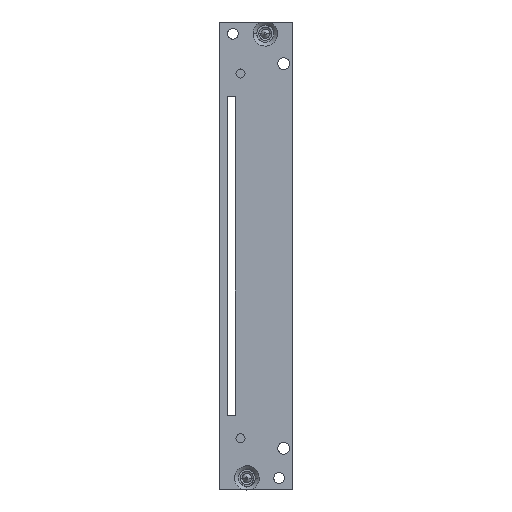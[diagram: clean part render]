
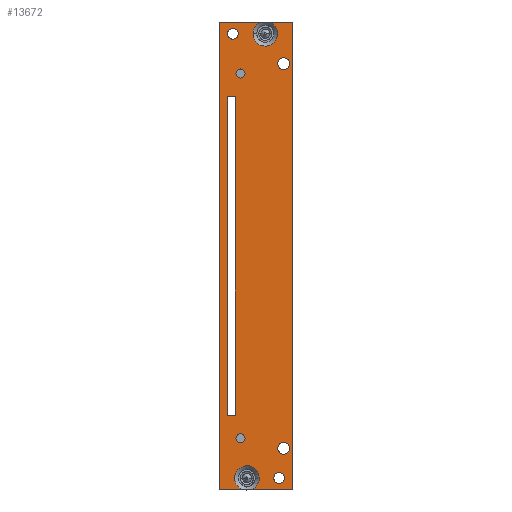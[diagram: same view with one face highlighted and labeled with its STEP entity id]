
A CAD part, top view. The second image highlights one B-rep face of the part: STEP entity #13672.
In plain terms, the highlighted planar face has unit normal (0, 0, 1).
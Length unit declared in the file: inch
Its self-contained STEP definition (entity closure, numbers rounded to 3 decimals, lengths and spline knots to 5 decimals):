
#318=CARTESIAN_POINT('',(0.15486,2.53315,0.105));
#338=CARTESIAN_POINT('',(0.04714,2.53315,0.105));
#352=CARTESIAN_POINT('',(-0.15286,-2.53315,0.105));
#372=CARTESIAN_POINT('',(-0.04514,-2.53315,0.105));
#3232=CARTESIAN_POINT('',(0.101,2.411,0.105));
#3233=DIRECTION('',(0.,0.,-1.));
#3234=DIRECTION('',(-1.,0.,0.));
#3235=AXIS2_PLACEMENT_3D('',#3232,#3233,#3234);
#3237=DIRECTION('',(-1.,0.,0.));
#3238=VECTOR('',#3237,0.23914);
#3239=CARTESIAN_POINT('',(0.394,2.53315,0.105));
#3240=LINE('',#3239,#3238);
#3241=DIRECTION('',(0.,1.,0.));
#3242=VECTOR('',#3241,5.0663);
#3243=CARTESIAN_POINT('',(0.394,-2.53315,0.105));
#3244=LINE('',#3243,#3242);
#3245=DIRECTION('',(1.,0.,0.));
#3246=VECTOR('',#3245,0.43914);
#3247=CARTESIAN_POINT('',(-0.04514,-2.53315,0.105));
#3248=LINE('',#3247,#3246);
#3249=CARTESIAN_POINT('',(-0.099,-2.411,0.105));
#3250=DIRECTION('',(0.,0.,-1.));
#3251=DIRECTION('',(1.,0.,0.));
#3252=AXIS2_PLACEMENT_3D('',#3249,#3250,#3251);
#3254=DIRECTION('',(1.,0.,0.));
#3255=VECTOR('',#3254,0.24114);
#3256=CARTESIAN_POINT('',(-0.394,-2.53315,0.105));
#3257=LINE('',#3256,#3255);
#3258=DIRECTION('',(0.,-1.,0.));
#3259=VECTOR('',#3258,5.0663);
#3260=CARTESIAN_POINT('',(-0.394,2.53315,0.105));
#3261=LINE('',#3260,#3259);
#3262=DIRECTION('',(-1.,0.,0.));
#3263=VECTOR('',#3262,0.44114);
#3264=CARTESIAN_POINT('',(0.04714,2.53315,0.105));
#3265=LINE('',#3264,#3263);
#3266=CARTESIAN_POINT('',(-0.168,-1.98015,0.105));
#3267=DIRECTION('',(0.,0.,1.));
#3268=DIRECTION('',(-1.,0.,0.));
#3269=AXIS2_PLACEMENT_3D('',#3266,#3267,#3268);
#3271=CARTESIAN_POINT('',(-0.168,-1.98015,0.105));
#3272=DIRECTION('',(0.,0.,1.));
#3273=DIRECTION('',(1.,0.,0.));
#3274=AXIS2_PLACEMENT_3D('',#3271,#3272,#3273);
#3276=CARTESIAN_POINT('',(-0.168,1.97985,0.105));
#3277=DIRECTION('',(0.,0.,1.));
#3278=DIRECTION('',(-1.,0.,0.));
#3279=AXIS2_PLACEMENT_3D('',#3276,#3277,#3278);
#3281=CARTESIAN_POINT('',(-0.168,1.97985,0.105));
#3282=DIRECTION('',(0.,0.,1.));
#3283=DIRECTION('',(1.,0.,0.));
#3284=AXIS2_PLACEMENT_3D('',#3281,#3282,#3283);
#3286=CARTESIAN_POINT('',(0.251,-2.411,0.105));
#3287=DIRECTION('',(0.,0.,1.));
#3288=DIRECTION('',(-1.,0.,0.));
#3289=AXIS2_PLACEMENT_3D('',#3286,#3287,#3288);
#3291=CARTESIAN_POINT('',(0.251,-2.411,0.105));
#3292=DIRECTION('',(0.,0.,1.));
#3293=DIRECTION('',(1.,0.,0.));
#3294=AXIS2_PLACEMENT_3D('',#3291,#3292,#3293);
#3296=CARTESIAN_POINT('',(-0.251,2.411,0.105));
#3297=DIRECTION('',(0.,0.,1.));
#3298=DIRECTION('',(-1.,0.,0.));
#3299=AXIS2_PLACEMENT_3D('',#3296,#3297,#3298);
#3301=CARTESIAN_POINT('',(-0.251,2.411,0.105));
#3302=DIRECTION('',(0.,0.,1.));
#3303=DIRECTION('',(1.,0.,0.));
#3304=AXIS2_PLACEMENT_3D('',#3301,#3302,#3303);
#3306=DIRECTION('',(1.,0.,0.));
#3307=VECTOR('',#3306,0.089);
#3308=CARTESIAN_POINT('',(-0.314,1.73064,0.105));
#3309=LINE('',#3308,#3307);
#3310=DIRECTION('',(0.,1.,0.));
#3311=VECTOR('',#3310,3.46079);
#3312=CARTESIAN_POINT('',(-0.314,-1.73015,0.105));
#3313=LINE('',#3312,#3311);
#3314=DIRECTION('',(1.,0.,0.));
#3315=VECTOR('',#3314,0.089);
#3316=CARTESIAN_POINT('',(-0.314,-1.73015,0.105));
#3317=LINE('',#3316,#3315);
#3318=DIRECTION('',(0.,-1.,0.));
#3319=VECTOR('',#3318,3.46079);
#3320=CARTESIAN_POINT('',(-0.225,1.73064,0.105));
#3321=LINE('',#3320,#3319);
#3322=CARTESIAN_POINT('',(0.301,2.087,0.105));
#3323=DIRECTION('',(0.,0.,-1.));
#3324=DIRECTION('',(-1.,0.,0.));
#3325=AXIS2_PLACEMENT_3D('',#3322,#3323,#3324);
#3327=CARTESIAN_POINT('',(0.301,2.087,0.105));
#3328=DIRECTION('',(0.,0.,-1.));
#3329=DIRECTION('',(1.,0.,0.));
#3330=AXIS2_PLACEMENT_3D('',#3327,#3328,#3329);
#3332=CARTESIAN_POINT('',(0.301,-2.087,0.105));
#3333=DIRECTION('',(0.,0.,-1.));
#3334=DIRECTION('',(-1.,0.,0.));
#3335=AXIS2_PLACEMENT_3D('',#3332,#3333,#3334);
#3337=CARTESIAN_POINT('',(0.301,-2.087,0.105));
#3338=DIRECTION('',(0.,0.,-1.));
#3339=DIRECTION('',(1.,0.,0.));
#3340=AXIS2_PLACEMENT_3D('',#3337,#3338,#3339);
#3346=CARTESIAN_POINT('',(0.101,2.411,0.105));
#3347=DIRECTION('',(0.,0.,-1.));
#3348=DIRECTION('',(0.404,0.915,0.));
#3349=AXIS2_PLACEMENT_3D('',#3346,#3347,#3348);
#4414=CARTESIAN_POINT('',(-0.099,-2.411,0.105));
#4415=DIRECTION('',(0.,0.,-1.));
#4416=DIRECTION('',(-0.404,-0.915,0.));
#4417=AXIS2_PLACEMENT_3D('',#4414,#4415,#4416);
#8750=CARTESIAN_POINT('',(-0.394,2.53315,0.105));
#8751=CARTESIAN_POINT('',(-0.394,-2.53315,0.105));
#8752=VERTEX_POINT('',#8750);
#8753=VERTEX_POINT('',#8751);
#8754=CARTESIAN_POINT('',(0.394,-2.53315,0.105));
#8755=CARTESIAN_POINT('',(0.394,2.53315,0.105));
#8756=VERTEX_POINT('',#8754);
#8757=VERTEX_POINT('',#8755);
#8762=CARTESIAN_POINT('',(0.19195,-2.411,0.105));
#8763=CARTESIAN_POINT('',(0.31006,-2.411,0.105));
#8764=VERTEX_POINT('',#8762);
#8765=VERTEX_POINT('',#8763);
#8774=CARTESIAN_POINT('',(-0.314,1.73064,0.105));
#8775=CARTESIAN_POINT('',(-0.225,1.73064,0.105));
#8776=VERTEX_POINT('',#8774);
#8777=VERTEX_POINT('',#8775);
#8778=CARTESIAN_POINT('',(-0.225,-1.73015,0.105));
#8779=VERTEX_POINT('',#8778);
#8780=CARTESIAN_POINT('',(-0.314,-1.73015,0.105));
#8781=VERTEX_POINT('',#8780);
#8786=CARTESIAN_POINT('',(-0.31006,2.411,0.105));
#8787=CARTESIAN_POINT('',(-0.19195,2.411,0.105));
#8788=VERTEX_POINT('',#8786);
#8789=VERTEX_POINT('',#8787);
#8794=CARTESIAN_POINT('',(0.237,2.087,0.105));
#8795=CARTESIAN_POINT('',(0.365,2.087,0.105));
#8796=VERTEX_POINT('',#8794);
#8797=VERTEX_POINT('',#8795);
#8798=CARTESIAN_POINT('',(-0.21721,-1.98015,0.105));
#8799=CARTESIAN_POINT('',(-0.11879,-1.98015,0.105));
#8800=VERTEX_POINT('',#8798);
#8801=VERTEX_POINT('',#8799);
#8802=CARTESIAN_POINT('',(-0.21721,1.97985,0.105));
#8803=CARTESIAN_POINT('',(-0.11879,1.97985,0.105));
#8804=VERTEX_POINT('',#8802);
#8805=VERTEX_POINT('',#8803);
#8807=VERTEX_POINT('',#338);
#8812=CARTESIAN_POINT('',(-0.0325,2.411,0.105));
#8813=VERTEX_POINT('',#8812);
#8814=VERTEX_POINT('',#318);
#8818=VERTEX_POINT('',#372);
#8823=CARTESIAN_POINT('',(0.0345,-2.411,0.105));
#8824=VERTEX_POINT('',#8823);
#8825=VERTEX_POINT('',#352);
#8832=CARTESIAN_POINT('',(0.237,-2.087,0.105));
#8833=CARTESIAN_POINT('',(0.365,-2.087,0.105));
#8834=VERTEX_POINT('',#8832);
#8835=VERTEX_POINT('',#8833);
#13605=CARTESIAN_POINT('',(0.,0.,0.105));
#13606=DIRECTION('',(0.,0.,1.));
#13607=DIRECTION('',(1.,0.,0.));
#13608=AXIS2_PLACEMENT_3D('',#13605,#13606,#13607);
#13609=PLANE('',#13608);
#13611=ORIENTED_EDGE('',*,*,#13610,.F.);
#13613=ORIENTED_EDGE('',*,*,#13612,.F.);
#13614=ORIENTED_EDGE('',*,*,#10388,.F.);
#13615=ORIENTED_EDGE('',*,*,#10410,.F.);
#13616=ORIENTED_EDGE('',*,*,#10432,.F.);
#13618=ORIENTED_EDGE('',*,*,#13617,.F.);
#13620=ORIENTED_EDGE('',*,*,#13619,.F.);
#13621=ORIENTED_EDGE('',*,*,#10426,.F.);
#13622=ORIENTED_EDGE('',*,*,#13599,.F.);
#13623=ORIENTED_EDGE('',*,*,#10394,.F.);
#13624=EDGE_LOOP('',(#13611,#13613,#13614,#13615,#13616,#13618,#13620,#13621,
#13622,#13623));
#13625=FACE_OUTER_BOUND('',#13624,.F.);
#13627=ORIENTED_EDGE('',*,*,#13626,.T.);
#13629=ORIENTED_EDGE('',*,*,#13628,.T.);
#13630=EDGE_LOOP('',(#13627,#13629));
#13631=FACE_BOUND('',#13630,.F.);
#13633=ORIENTED_EDGE('',*,*,#13632,.T.);
#13635=ORIENTED_EDGE('',*,*,#13634,.T.);
#13636=EDGE_LOOP('',(#13633,#13635));
#13637=FACE_BOUND('',#13636,.F.);
#13639=ORIENTED_EDGE('',*,*,#13638,.T.);
#13641=ORIENTED_EDGE('',*,*,#13640,.T.);
#13642=EDGE_LOOP('',(#13639,#13641));
#13643=FACE_BOUND('',#13642,.F.);
#13645=ORIENTED_EDGE('',*,*,#13644,.T.);
#13647=ORIENTED_EDGE('',*,*,#13646,.T.);
#13648=EDGE_LOOP('',(#13645,#13647));
#13649=FACE_BOUND('',#13648,.F.);
#13651=ORIENTED_EDGE('',*,*,#13650,.F.);
#13653=ORIENTED_EDGE('',*,*,#13652,.F.);
#13655=ORIENTED_EDGE('',*,*,#13654,.T.);
#13657=ORIENTED_EDGE('',*,*,#13656,.F.);
#13658=EDGE_LOOP('',(#13651,#13653,#13655,#13657));
#13659=FACE_BOUND('',#13658,.F.);
#13661=ORIENTED_EDGE('',*,*,#13660,.F.);
#13663=ORIENTED_EDGE('',*,*,#13662,.F.);
#13664=EDGE_LOOP('',(#13661,#13663));
#13665=FACE_BOUND('',#13664,.F.);
#13667=ORIENTED_EDGE('',*,*,#13666,.F.);
#13669=ORIENTED_EDGE('',*,*,#13668,.F.);
#13670=EDGE_LOOP('',(#13667,#13669));
#13671=FACE_BOUND('',#13670,.F.);
#13672=ADVANCED_FACE('',(#13625,#13631,#13637,#13643,#13649,#13659,#13665,
#13671),#13609,.T.);
#3236=CIRCLE('',#3235,0.1335);
#3253=CIRCLE('',#3252,0.1335);
#3270=CIRCLE('',#3269,0.04921);
#3275=CIRCLE('',#3274,0.04921);
#3280=CIRCLE('',#3279,0.04921);
#3285=CIRCLE('',#3284,0.04921);
#3290=CIRCLE('',#3289,0.05906);
#3295=CIRCLE('',#3294,0.05906);
#3300=CIRCLE('',#3299,0.05906);
#3305=CIRCLE('',#3304,0.05906);
#3326=CIRCLE('',#3325,0.064);
#3331=CIRCLE('',#3330,0.064);
#3336=CIRCLE('',#3335,0.064);
#3341=CIRCLE('',#3340,0.064);
#3350=CIRCLE('',#3349,0.1335);
#4418=CIRCLE('',#4417,0.1335);
#10388=EDGE_CURVE('',#8757,#8814,#3240,.T.);
#10394=EDGE_CURVE('',#8807,#8752,#3265,.T.);
#10410=EDGE_CURVE('',#8756,#8757,#3244,.T.);
#10426=EDGE_CURVE('',#8753,#8825,#3257,.T.);
#10432=EDGE_CURVE('',#8818,#8756,#3248,.T.);
#13599=EDGE_CURVE('',#8752,#8753,#3261,.T.);
#13610=EDGE_CURVE('',#8813,#8807,#3236,.T.);
#13612=EDGE_CURVE('',#8814,#8813,#3350,.T.);
#13617=EDGE_CURVE('',#8824,#8818,#3253,.T.);
#13619=EDGE_CURVE('',#8825,#8824,#4418,.T.);
#13626=EDGE_CURVE('',#8800,#8801,#3270,.T.);
#13628=EDGE_CURVE('',#8801,#8800,#3275,.T.);
#13632=EDGE_CURVE('',#8804,#8805,#3280,.T.);
#13634=EDGE_CURVE('',#8805,#8804,#3285,.T.);
#13638=EDGE_CURVE('',#8764,#8765,#3290,.T.);
#13640=EDGE_CURVE('',#8765,#8764,#3295,.T.);
#13644=EDGE_CURVE('',#8788,#8789,#3300,.T.);
#13646=EDGE_CURVE('',#8789,#8788,#3305,.T.);
#13650=EDGE_CURVE('',#8776,#8777,#3309,.T.);
#13652=EDGE_CURVE('',#8781,#8776,#3313,.T.);
#13654=EDGE_CURVE('',#8781,#8779,#3317,.T.);
#13656=EDGE_CURVE('',#8777,#8779,#3321,.T.);
#13660=EDGE_CURVE('',#8796,#8797,#3326,.T.);
#13662=EDGE_CURVE('',#8797,#8796,#3331,.T.);
#13666=EDGE_CURVE('',#8834,#8835,#3336,.T.);
#13668=EDGE_CURVE('',#8835,#8834,#3341,.T.);
